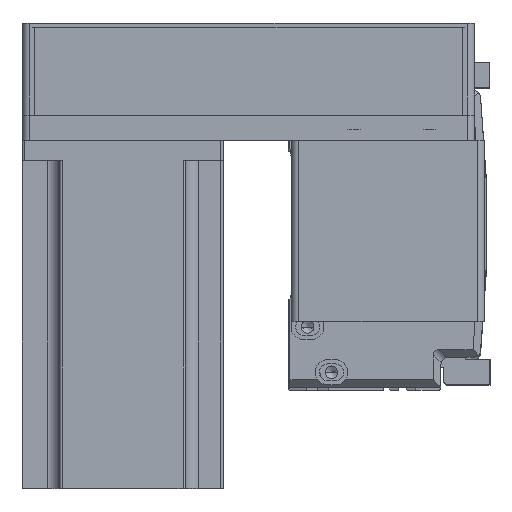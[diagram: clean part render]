
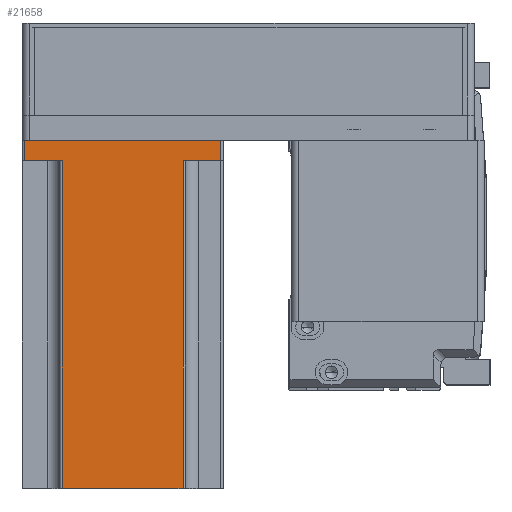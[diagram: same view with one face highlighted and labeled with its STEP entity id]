
A CAD part, top view. The second image highlights one B-rep face of the part: STEP entity #21658.
In plain terms, the highlighted planar face has unit normal (0, 0, 1) as drawn and (0, 1, 0) by its records, which use the part's own axes.
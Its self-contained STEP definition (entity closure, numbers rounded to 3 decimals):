
#470 = LINE ( 'NONE', #20234, #27765 ) ;
#500 = DIRECTION ( 'NONE',  ( 0., 0., -1. ) ) ;
#610 = VERTEX_POINT ( 'NONE', #46090 ) ;
#1195 = VERTEX_POINT ( 'NONE', #18720 ) ;
#1671 = ORIENTED_EDGE ( 'NONE', *, *, #29325, .F. ) ;
#1924 = DIRECTION ( 'NONE',  ( 0., 0., 1. ) ) ;
#4386 = CARTESIAN_POINT ( 'NONE',  ( 39., 40., 138.3 ) ) ;
#5521 = CARTESIAN_POINT ( 'NONE',  ( 40., 40., 0. ) ) ;
#7118 = CARTESIAN_POINT ( 'NONE',  ( -24., 40., 138.3 ) ) ;
#8161 = LINE ( 'NONE', #17935, #35430 ) ;
#9606 = EDGE_LOOP ( 'NONE', ( #11611, #31322, #1671, #33043, #32580, #26547, #27782, #24704 ) ) ;
#11250 = DIRECTION ( 'NONE',  ( -1., 0., 0. ) ) ;
#11381 = EDGE_CURVE ( 'NONE', #29842, #15035, #35716, .T. ) ;
#11611 = ORIENTED_EDGE ( 'NONE', *, *, #34610, .T. ) ;
#12129 = CARTESIAN_POINT ( 'NONE',  ( 24., 40., 8. ) ) ;
#12521 = CARTESIAN_POINT ( 'NONE',  ( 40., 40., 138.3 ) ) ;
#13477 = LINE ( 'NONE', #37392, #22962 ) ;
#14744 = AXIS2_PLACEMENT_3D ( 'NONE', #12521, #37404, #16109 ) ;
#15035 = VERTEX_POINT ( 'NONE', #24229 ) ;
#15946 = PLANE ( 'NONE',  #14744 ) ;
#16109 = DIRECTION ( 'NONE',  ( 1., 0., 0. ) ) ;
#16560 = VERTEX_POINT ( 'NONE', #12129 ) ;
#17483 = FACE_OUTER_BOUND ( 'NONE', #9606, .T. ) ;
#17935 = CARTESIAN_POINT ( 'NONE',  ( -24., 40., 138.3 ) ) ;
#18065 = CARTESIAN_POINT ( 'NONE',  ( 39., 40., 8. ) ) ;
#18146 = VECTOR ( 'NONE', #500, 1000. ) ;
#18702 = DIRECTION ( 'NONE',  ( 1., 0., 0. ) ) ;
#18720 = CARTESIAN_POINT ( 'NONE',  ( 24., 40., 138.3 ) ) ;
#19368 = EDGE_CURVE ( 'NONE', #29842, #16560, #470, .T. ) ;
#20234 = CARTESIAN_POINT ( 'NONE',  ( 25., 40., 8. ) ) ;
#21658 = ADVANCED_FACE ( 'NONE', ( #17483 ), #15946, .F. ) ;
#21666 = DIRECTION ( 'NONE',  ( 0., 0., 1. ) ) ;
#22962 = VECTOR ( 'NONE', #1924, 1000. ) ;
#23566 = VERTEX_POINT ( 'NONE', #7118 ) ;
#24229 = CARTESIAN_POINT ( 'NONE',  ( 39., 40., 0. ) ) ;
#24287 = VECTOR ( 'NONE', #18702, 1000. ) ;
#24704 = ORIENTED_EDGE ( 'NONE', *, *, #38277, .T. ) ;
#24809 = LINE ( 'NONE', #5521, #42630 ) ;
#25683 = DIRECTION ( 'NONE',  ( 0., 0., -1. ) ) ;
#26282 = VECTOR ( 'NONE', #25683, 1000. ) ;
#26547 = ORIENTED_EDGE ( 'NONE', *, *, #11381, .T. ) ;
#26622 = EDGE_CURVE ( 'NONE', #610, #23566, #8161, .T. ) ;
#26887 = EDGE_CURVE ( 'NONE', #15035, #37963, #24809, .T. ) ;
#26963 = DIRECTION ( 'NONE',  ( -1., 0., 0. ) ) ;
#27765 = VECTOR ( 'NONE', #41564, 1000. ) ;
#27782 = ORIENTED_EDGE ( 'NONE', *, *, #26887, .T. ) ;
#28433 = LINE ( 'NONE', #29027, #45176 ) ;
#29027 = CARTESIAN_POINT ( 'NONE',  ( 40., 40., 138.3 ) ) ;
#29325 = EDGE_CURVE ( 'NONE', #1195, #23566, #28433, .T. ) ;
#29842 = VERTEX_POINT ( 'NONE', #18065 ) ;
#31322 = ORIENTED_EDGE ( 'NONE', *, *, #26622, .T. ) ;
#32580 = ORIENTED_EDGE ( 'NONE', *, *, #19368, .F. ) ;
#33043 = ORIENTED_EDGE ( 'NONE', *, *, #34534, .T. ) ;
#34534 = EDGE_CURVE ( 'NONE', #1195, #16560, #35959, .T. ) ;
#34610 = EDGE_CURVE ( 'NONE', #42608, #610, #42118, .T. ) ;
#34839 = CARTESIAN_POINT ( 'NONE',  ( -39., 40., 8. ) ) ;
#35430 = VECTOR ( 'NONE', #21666, 1000. ) ;
#35716 = LINE ( 'NONE', #4386, #26282 ) ;
#35959 = LINE ( 'NONE', #39513, #18146 ) ;
#37392 = CARTESIAN_POINT ( 'NONE',  ( -39., 40., 138.3 ) ) ;
#37404 = DIRECTION ( 'NONE',  ( 0., -1., 0. ) ) ;
#37963 = VERTEX_POINT ( 'NONE', #42467 ) ;
#38277 = EDGE_CURVE ( 'NONE', #37963, #42608, #13477, .T. ) ;
#39513 = CARTESIAN_POINT ( 'NONE',  ( 24., 40., 138.3 ) ) ;
#41564 = DIRECTION ( 'NONE',  ( -1., 0., 0. ) ) ;
#42118 = LINE ( 'NONE', #43646, #24287 ) ;
#42467 = CARTESIAN_POINT ( 'NONE',  ( -39., 40., 0. ) ) ;
#42608 = VERTEX_POINT ( 'NONE', #34839 ) ;
#42630 = VECTOR ( 'NONE', #26963, 1000. ) ;
#43646 = CARTESIAN_POINT ( 'NONE',  ( -25., 40., 8. ) ) ;
#45176 = VECTOR ( 'NONE', #11250, 1000. ) ;
#46090 = CARTESIAN_POINT ( 'NONE',  ( -24., 40., 8. ) ) ;
